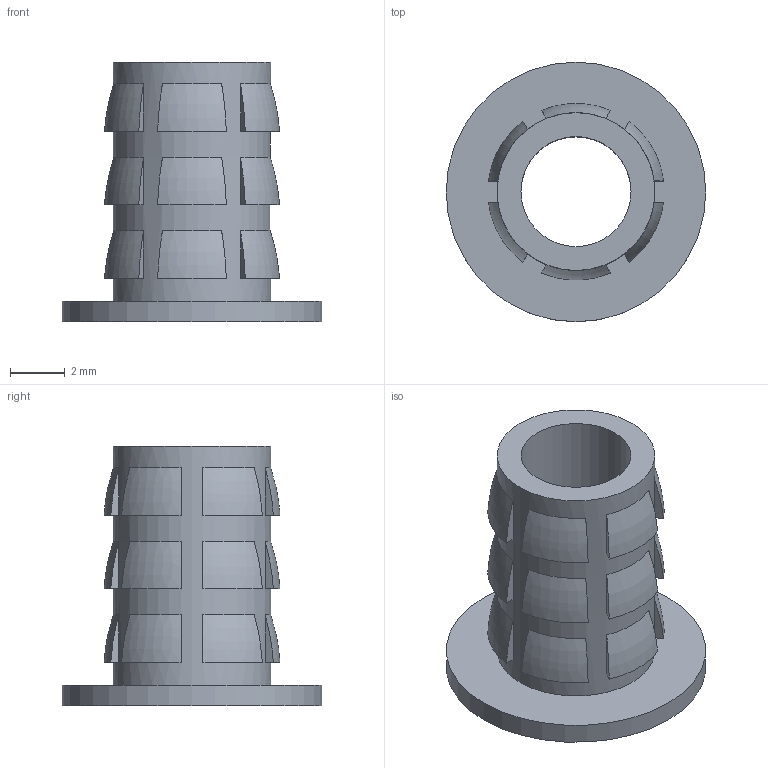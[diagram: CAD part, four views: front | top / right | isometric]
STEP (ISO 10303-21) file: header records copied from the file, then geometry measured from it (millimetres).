
FILE_DESCRIPTION (( 'STEP AP214' ), '1' );
FILE_NAME ('flanged insert 10-32.STEP', '2017-08-09T04:26:55', ( '微软用户' ), ( '微软中国' ), 'SwSTEP 2.0', 'SolidWorks 2015', '' );
FILE_SCHEMA (( 'AUTOMOTIVE_DESIGN' ));
Length unit declared in the file: millimetre
Products named in the file (1): flanged insert 10-32
Bounding box: 9.53 x 9.53 x 9.53 mm (x, y, z)
Volume: 174 mm3; surface area: 451.5 mm2
Topology: 1 solids, 1 shells, 79 faces, 173 edges, 115 vertices
Faces by surface type: plane 57, torus 18, cylinder 3, cone 1
Full cylindrical faces by diameter (mm): 4.039 x1, 5.791 x1, 9.525 x1
Entity records: 3139 total; most frequent: CARTESIAN_POINT 508, DIRECTION 354, ORIENTED_EDGE 338, EDGE_CURVE 169, AXIS2_PLACEMENT_3D 141, VERTEX_POINT 115, EDGE_LOOP 104, UNCERTAINTY_MEASURE_WITH_UNIT 82
